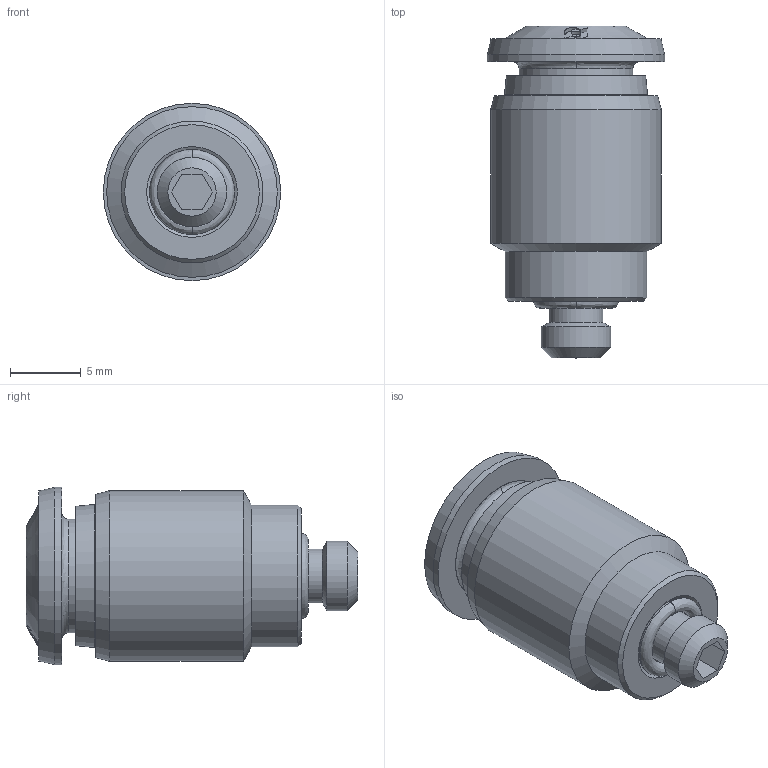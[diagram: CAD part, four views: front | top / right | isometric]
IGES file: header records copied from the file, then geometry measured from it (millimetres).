
Start section: SolidWorks IGES file using analytic representation for surfaces
Global section: file name: C:\Users\Cad05\Desktop\50010_igs\5001000007A.IGS; native system: SolidWorks 2012; preprocessor: SolidWorks 2012; author: cad05; date: 120924.145433; units: millimetre
Bounding box: 12.5 x 23.4 x 12.5 mm (x, y, z)
Surface area: 1362.7 mm2 (no closed solid volume)
Topology: 0 solids, 0 shells, 111 faces, 1070 edges, 1051 vertices
Faces by surface type: bspline 76, revolution 35
